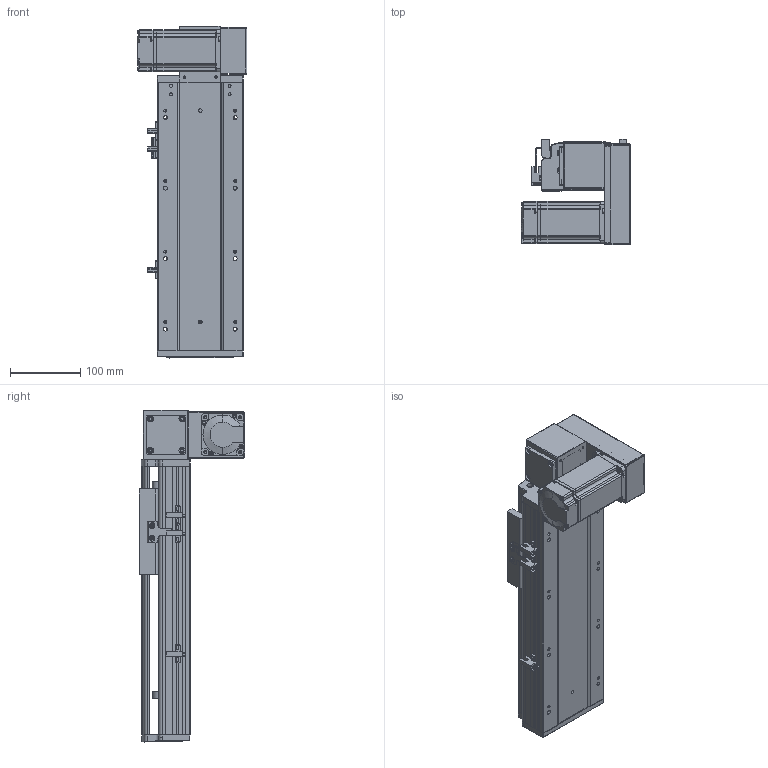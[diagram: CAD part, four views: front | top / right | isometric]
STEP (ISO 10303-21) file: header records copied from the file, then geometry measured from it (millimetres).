
FILE_DESCRIPTION (( 'STEP AP203' ), '1' );
FILE_NAME ('RY120-T-300-DR.SLDASM_150.step', '2021-03-01T03:34:25', ( '盈信电脑' ), ( '东莞市道滘镇水果街19号' ), 'SwSTEP 2.0', 'SolidWorks 2012', '' );
FILE_SCHEMA (( 'CONFIG_CONTROL_DESIGN' ));
Products named in the file (17): RY120-T主同步轮轴承压盖; RY120-T-300-DR.SLDASM_150; RY120-T萇儂欶; 15; RY120-T蹟翐M4; RY120-T翋肮祭謫裔啣; RY120-T萇儂假蚾啣; RY120-T肮祭湍揤踡輸1; 滅袉蝶18-10; RY120-T翋肮祭盓傅釱; RY120-T肮祭湍揤踡輸2; 覜茼ん672; RY120綴裔啣; RY120肮祭湍臏賑輸; RY120外置感应片(140共用）; RY120-T-300-DR倰第奻裔啣_150; RY120-T-300-DR倰第菁釱_150
Assembly tree (22 placements, depth 2):
  RY120-T-300-DR.SLDASM_150
    RY120-T-300-DR倰第菁釱_150
    RY120-T-300-DR倰第奻裔啣_150
    RY120肮祭湍臏賑輸
    RY120綴裔啣
    覜茼ん672  x3
    RY120外置感应片(140共用）
    RY120-T肮祭湍揤踡輸1
    RY120-T肮祭湍揤踡輸2
    RY120-T翋肮祭盓傅釱
    滅袉蝶18-10  x2
    RY120-T翋肮祭謫裔啣
    15
    RY120-T萇儂假蚾啣
    RY120-T蹟翐M4  x4
    RY120-T萇儂欶
    RY120-T主同步轮轴承压盖
Bounding box: 155.5 x 150 x 471 mm (x, y, z)
Volume: 1756077.9 mm3; surface area: 612986.2 mm2
Topology: 23 solids, 23 shells, 2578 faces, 6996 edges, 4514 vertices
Faces by surface type: plane 1386, cylinder 916, cone 187, bspline 89
Entity records: 80947 total; most frequent: CARTESIAN_POINT 19908, ORIENTED_EDGE 12528, DIRECTION 11910, EDGE_CURVE 6264, VERTEX_POINT 4101, VECTOR 4056, LINE 4056, AXIS2_PLACEMENT_3D 3927
